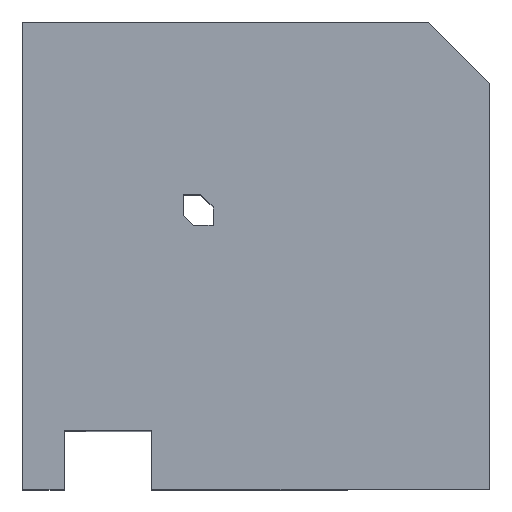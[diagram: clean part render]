
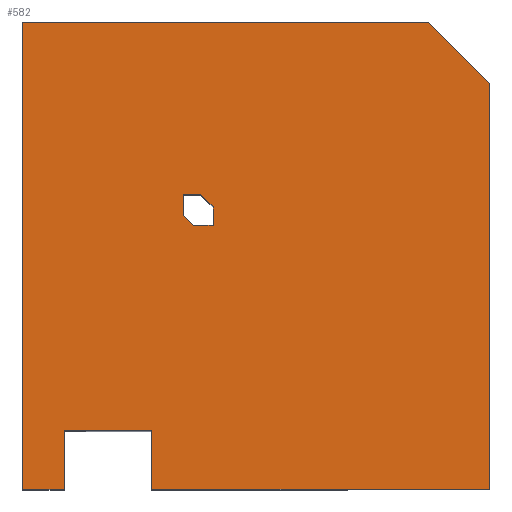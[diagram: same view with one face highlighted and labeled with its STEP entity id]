
A CAD part, top view. The second image highlights one B-rep face of the part: STEP entity #582.
In plain terms, the highlighted planar face has unit normal (0, 0, 1).
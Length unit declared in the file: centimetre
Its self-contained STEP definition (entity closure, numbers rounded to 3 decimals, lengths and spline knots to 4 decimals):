
#6 = CARTESIAN_POINT ( 'NONE',  ( 408.2433, 604.06, 1000. ) ) ;
#20 = CARTESIAN_POINT ( 'NONE',  ( 0., 0., 1000. ) ) ;
#40 = CARTESIAN_POINT ( 'NONE',  ( 0., 0., 1000. ) ) ;
#47 = DIRECTION ( 'NONE',  ( 0., 0., 1. ) ) ;
#57 = VECTOR ( 'NONE', #597, 100. ) ;
#67 = CARTESIAN_POINT ( 'NONE',  ( 89.755, 0., 1000. ) ) ;
#76 = CARTESIAN_POINT ( 'NONE',  ( 381.1541, 631.1492, 1000. ) ) ;
#93 = DIRECTION ( 'NONE',  ( -1., 0., 0. ) ) ;
#113 = VERTEX_POINT ( 'NONE', #253 ) ;
#122 = VERTEX_POINT ( 'NONE', #1559 ) ;
#123 = VERTEX_POINT ( 'NONE', #893 ) ;
#139 = VECTOR ( 'NONE', #93, 100. ) ;
#194 = CARTESIAN_POINT ( 'NONE',  ( 408.2433, 604.06, 1000. ) ) ;
#206 = EDGE_CURVE ( 'NONE', #408, #1301, #509, .T. ) ;
#209 = CARTESIAN_POINT ( 'NONE',  ( 0., 1000., 1000. ) ) ;
#210 = CARTESIAN_POINT ( 'NONE',  ( 869.2041, 1000., 1000. ) ) ;
#219 = LINE ( 'NONE', #1000, #1519 ) ;
#232 = CARTESIAN_POINT ( 'NONE',  ( 0., 1000., 1000. ) ) ;
#234 = LINE ( 'NONE', #503, #280 ) ;
#238 = VECTOR ( 'NONE', #1194, 100. ) ;
#253 = CARTESIAN_POINT ( 'NONE',  ( 0., 1000., 1000. ) ) ;
#258 = DIRECTION ( 'NONE',  ( 0.707, -0.707, 0. ) ) ;
#267 = LINE ( 'NONE', #209, #139 ) ;
#277 = VERTEX_POINT ( 'NONE', #1513 ) ;
#280 = VECTOR ( 'NONE', #613, 100. ) ;
#282 = ORIENTED_EDGE ( 'NONE', *, *, #292, .T. ) ;
#292 = EDGE_CURVE ( 'NONE', #774, #752, #442, .T. ) ;
#338 = DIRECTION ( 'NONE',  ( 0., 1., 0. ) ) ;
#343 = LINE ( 'NONE', #67, #1543 ) ;
#375 = VERTEX_POINT ( 'NONE', #1271 ) ;
#408 = VERTEX_POINT ( 'NONE', #1278 ) ;
#414 = VECTOR ( 'NONE', #1267, 100. ) ;
#442 = LINE ( 'NONE', #471, #1049 ) ;
#465 = AXIS2_PLACEMENT_3D ( 'NONE', #40, #47, #1355 ) ;
#469 = LINE ( 'NONE', #606, #848 ) ;
#471 = CARTESIAN_POINT ( 'NONE',  ( 276.6106, 0., 1000. ) ) ;
#503 = CARTESIAN_POINT ( 'NONE',  ( 89.755, 124.7499, 1000. ) ) ;
#509 = LINE ( 'NONE', #536, #1126 ) ;
#516 = ORIENTED_EDGE ( 'NONE', *, *, #1560, .F. ) ;
#518 = ORIENTED_EDGE ( 'NONE', *, *, #713, .T. ) ;
#536 = CARTESIAN_POINT ( 'NONE',  ( 1000., 1000., 1000. ) ) ;
#539 = ORIENTED_EDGE ( 'NONE', *, *, #932, .F. ) ;
#553 = VECTOR ( 'NONE', #1665, 100. ) ;
#574 = VECTOR ( 'NONE', #1693, 100. ) ;
#582 = ADVANCED_FACE ( 'NONE', ( #1253, #699 ), #1107, .T. ) ;
#597 = DIRECTION ( 'NONE',  ( -0.707, 0.707, 0. ) ) ;
#600 = VECTOR ( 'NONE', #258, 100. ) ;
#606 = CARTESIAN_POINT ( 'NONE',  ( 366.2441, 564.6724, 1000. ) ) ;
#613 = DIRECTION ( 'NONE',  ( 1., 0., 0. ) ) ;
#636 = CARTESIAN_POINT ( 'NONE',  ( 344.6275, 631.1492, 1000. ) ) ;
#648 = CARTESIAN_POINT ( 'NONE',  ( 408.2433, 564.6724, 1000. ) ) ;
#688 = CARTESIAN_POINT ( 'NONE',  ( 344.6275, 631.1492, 1000. ) ) ;
#699 = FACE_BOUND ( 'NONE', #905, .T. ) ;
#713 = EDGE_CURVE ( 'NONE', #123, #774, #234, .T. ) ;
#714 = CARTESIAN_POINT ( 'NONE',  ( 381.1541, 631.1492, 1000. ) ) ;
#742 = LINE ( 'NONE', #232, #553 ) ;
#750 = EDGE_CURVE ( 'NONE', #1485, #1341, #1418, .T. ) ;
#752 = VERTEX_POINT ( 'NONE', #1394 ) ;
#757 = EDGE_LOOP ( 'NONE', ( #1185, #518, #282, #788, #1344, #901, #1508, #1037, #920 ) ) ;
#770 = LINE ( 'NONE', #1042, #1012 ) ;
#774 = VERTEX_POINT ( 'NONE', #1277 ) ;
#782 = ORIENTED_EDGE ( 'NONE', *, *, #1209, .F. ) ;
#788 = ORIENTED_EDGE ( 'NONE', *, *, #1200, .T. ) ;
#819 = VERTEX_POINT ( 'NONE', #210 ) ;
#848 = VECTOR ( 'NONE', #1456, 100. ) ;
#852 = LINE ( 'NONE', #194, #57 ) ;
#855 = DIRECTION ( 'NONE',  ( 0., -1., 0. ) ) ;
#869 = EDGE_CURVE ( 'NONE', #1061, #375, #770, .T. ) ;
#893 = CARTESIAN_POINT ( 'NONE',  ( 89.755, 124.7499, 1000. ) ) ;
#897 = DIRECTION ( 'NONE',  ( 1., 0., 0. ) ) ;
#901 = ORIENTED_EDGE ( 'NONE', *, *, #1650, .T. ) ;
#905 = EDGE_LOOP ( 'NONE', ( #1206, #782, #539, #1155, #1160, #516 ) ) ;
#914 = CARTESIAN_POINT ( 'NONE',  ( 344.6275, 586.289, 1000. ) ) ;
#916 = VERTEX_POINT ( 'NONE', #6 ) ;
#920 = ORIENTED_EDGE ( 'NONE', *, *, #869, .T. ) ;
#922 = CARTESIAN_POINT ( 'NONE',  ( 0., 0., 1000. ) ) ;
#932 = EDGE_CURVE ( 'NONE', #122, #277, #1705, .T. ) ;
#968 = CARTESIAN_POINT ( 'NONE',  ( 1000., 869.2041, 1000. ) ) ;
#1000 = CARTESIAN_POINT ( 'NONE',  ( 408.2433, 564.6724, 1000. ) ) ;
#1005 = DIRECTION ( 'NONE',  ( 0., 1., 0. ) ) ;
#1012 = VECTOR ( 'NONE', #897, 100. ) ;
#1037 = ORIENTED_EDGE ( 'NONE', *, *, #1645, .T. ) ;
#1042 = CARTESIAN_POINT ( 'NONE',  ( 0., 0., 1000. ) ) ;
#1049 = VECTOR ( 'NONE', #855, 100. ) ;
#1061 = VERTEX_POINT ( 'NONE', #20 ) ;
#1066 = DIRECTION ( 'NONE',  ( 0., 1., 0. ) ) ;
#1074 = EDGE_CURVE ( 'NONE', #819, #113, #267, .T. ) ;
#1096 = EDGE_CURVE ( 'NONE', #1201, #916, #219, .T. ) ;
#1107 = PLANE ( 'NONE',  #465 ) ;
#1122 = EDGE_CURVE ( 'NONE', #1341, #122, #1442, .T. ) ;
#1125 = CARTESIAN_POINT ( 'NONE',  ( 934.6021, 934.6021, 1000. ) ) ;
#1126 = VECTOR ( 'NONE', #1066, 100. ) ;
#1127 = DIRECTION ( 'NONE',  ( 1., 0., 0. ) ) ;
#1155 = ORIENTED_EDGE ( 'NONE', *, *, #1122, .F. ) ;
#1160 = ORIENTED_EDGE ( 'NONE', *, *, #750, .F. ) ;
#1185 = ORIENTED_EDGE ( 'NONE', *, *, #1595, .T. ) ;
#1194 = DIRECTION ( 'NONE',  ( 0., -1., 0. ) ) ;
#1200 = EDGE_CURVE ( 'NONE', #752, #408, #1661, .T. ) ;
#1201 = VERTEX_POINT ( 'NONE', #648 ) ;
#1206 = ORIENTED_EDGE ( 'NONE', *, *, #1096, .F. ) ;
#1209 = EDGE_CURVE ( 'NONE', #277, #1201, #469, .T. ) ;
#1243 = VECTOR ( 'NONE', #1127, 100. ) ;
#1253 = FACE_OUTER_BOUND ( 'NONE', #757, .T. ) ;
#1267 = DIRECTION ( 'NONE',  ( -0.707, 0.707, 0. ) ) ;
#1271 = CARTESIAN_POINT ( 'NONE',  ( 89.755, 0., 1000. ) ) ;
#1274 = LINE ( 'NONE', #1125, #414 ) ;
#1277 = CARTESIAN_POINT ( 'NONE',  ( 276.6106, 124.7499, 1000. ) ) ;
#1278 = CARTESIAN_POINT ( 'NONE',  ( 1000., 0., 1000. ) ) ;
#1301 = VERTEX_POINT ( 'NONE', #968 ) ;
#1341 = VERTEX_POINT ( 'NONE', #688 ) ;
#1344 = ORIENTED_EDGE ( 'NONE', *, *, #206, .T. ) ;
#1355 = DIRECTION ( 'NONE',  ( 1., 0., 0. ) ) ;
#1394 = CARTESIAN_POINT ( 'NONE',  ( 276.6106, 0., 1000. ) ) ;
#1418 = LINE ( 'NONE', #76, #574 ) ;
#1442 = LINE ( 'NONE', #636, #238 ) ;
#1456 = DIRECTION ( 'NONE',  ( 1., 0., 0. ) ) ;
#1485 = VERTEX_POINT ( 'NONE', #714 ) ;
#1508 = ORIENTED_EDGE ( 'NONE', *, *, #1074, .T. ) ;
#1513 = CARTESIAN_POINT ( 'NONE',  ( 366.2441, 564.6724, 1000. ) ) ;
#1519 = VECTOR ( 'NONE', #338, 100. ) ;
#1543 = VECTOR ( 'NONE', #1005, 100. ) ;
#1559 = CARTESIAN_POINT ( 'NONE',  ( 344.6275, 586.289, 1000. ) ) ;
#1560 = EDGE_CURVE ( 'NONE', #916, #1485, #852, .T. ) ;
#1595 = EDGE_CURVE ( 'NONE', #375, #123, #343, .T. ) ;
#1645 = EDGE_CURVE ( 'NONE', #113, #1061, #742, .T. ) ;
#1650 = EDGE_CURVE ( 'NONE', #1301, #819, #1274, .T. ) ;
#1661 = LINE ( 'NONE', #922, #1243 ) ;
#1665 = DIRECTION ( 'NONE',  ( 0., -1., 0. ) ) ;
#1693 = DIRECTION ( 'NONE',  ( -1., 0., 0. ) ) ;
#1705 = LINE ( 'NONE', #914, #600 ) ;
